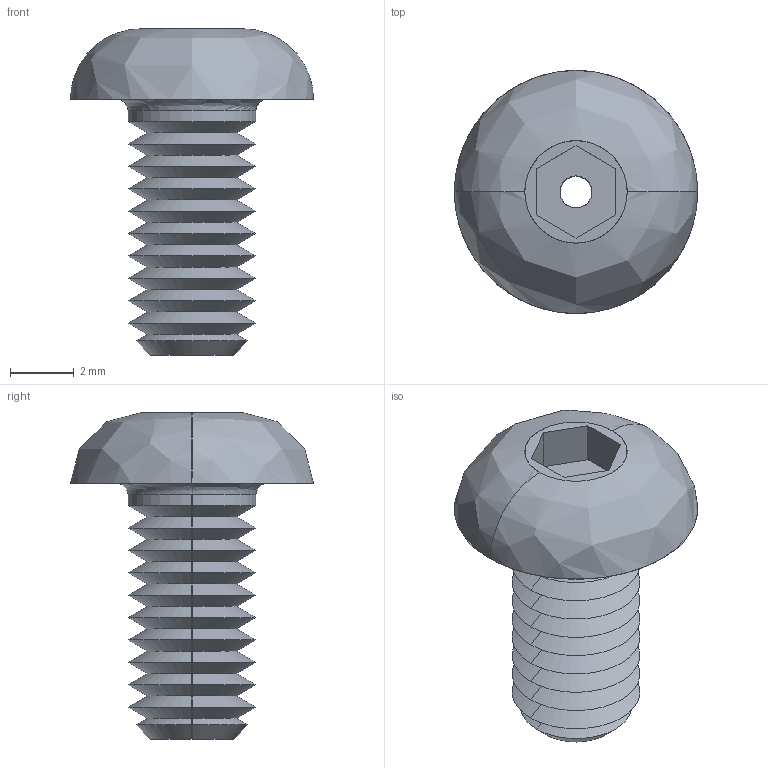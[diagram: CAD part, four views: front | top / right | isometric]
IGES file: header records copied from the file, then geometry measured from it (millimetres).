
Start section: SolidWorks IGES file using analytic representation for surfaces
Global section: file name: C:\Users\liam_\OneDrive\Documents\WORK\Work for WixRoyd\Job Files\J-00019 - Matt Davis CAD Checking\04. CAD Drawings\automotion20190605\P0094_v2\P0094_v2_20190712_IGES\P0094.040-008-A2.igs; native system: SolidWorks 2017; preprocessor: SolidWorks 2017; author: liam_; date: 190712.175215; units: millimetre
Bounding box: 7.6 x 7.6 x 10.2 mm (x, y, z)
Surface area: 307.8 mm2 (no closed solid volume)
Topology: 0 solids, 0 shells, 60 faces, 396 edges, 396 vertices
Faces by surface type: revolution 46, bspline 14
